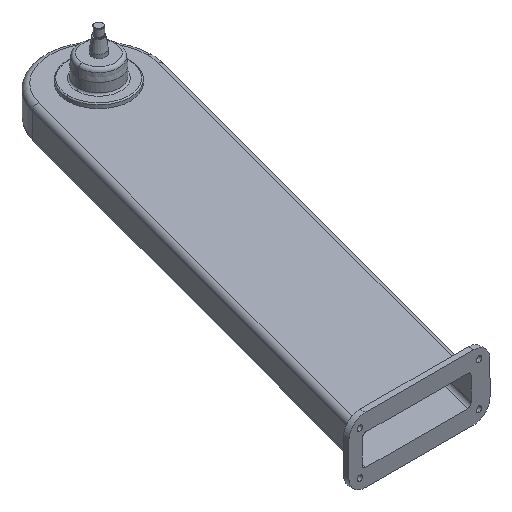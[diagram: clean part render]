
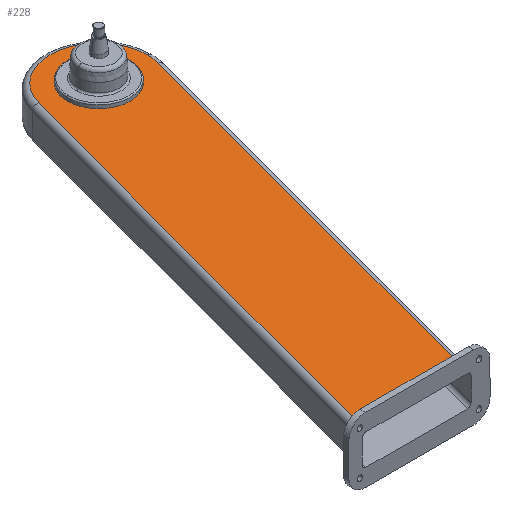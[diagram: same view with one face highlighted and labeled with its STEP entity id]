
A CAD part, isometric view. The second image highlights one B-rep face of the part: STEP entity #228.
In plain terms, the highlighted planar face has unit normal (0, 0, 1).
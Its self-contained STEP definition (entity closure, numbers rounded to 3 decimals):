
#17 = VECTOR ( 'NONE', #1755, 1000. ) ;
#30 = CARTESIAN_POINT ( 'NONE',  ( 0., 0., 31.25 ) ) ;
#91 = DIRECTION ( 'NONE',  ( 0., 0., 1. ) ) ;
#102 = EDGE_CURVE ( 'NONE', #1319, #741, #1587, .T. ) ;
#130 = DIRECTION ( 'NONE',  ( 0.259, 0.966, 0. ) ) ;
#158 = CARTESIAN_POINT ( 'NONE',  ( -58., 0., 31.25 ) ) ;
#228 = ADVANCED_FACE ( 'NONE', ( #874, #1882 ), #1395, .T. ) ;
#277 = CARTESIAN_POINT ( 'NONE',  ( 0., -780., 31.25 ) ) ;
#285 = EDGE_LOOP ( 'NONE', ( #2019, #477, #395, #1608, #2093 ) ) ;
#344 = CARTESIAN_POINT ( 'NONE',  ( -308.228, -802.588, 31.25 ) ) ;
#366 = CARTESIAN_POINT ( 'NONE',  ( 86.933, -23.294, 31.25 ) ) ;
#395 = ORIENTED_EDGE ( 'NONE', *, *, #667, .T. ) ;
#401 = VECTOR ( 'NONE', #130, 1000. ) ;
#469 = DIRECTION ( 'NONE',  ( 1., 0., 0. ) ) ;
#477 = ORIENTED_EDGE ( 'NONE', *, *, #1902, .T. ) ;
#506 = CIRCLE ( 'NONE', #1231, 90. ) ;
#524 = EDGE_CURVE ( 'NONE', #1426, #1787, #835, .T. ) ;
#543 = VERTEX_POINT ( 'NONE', #549 ) ;
#549 = CARTESIAN_POINT ( 'NONE',  ( -115.826, -780., 31.25 ) ) ;
#584 = EDGE_CURVE ( 'NONE', #1661, #590, #1194, .T. ) ;
#590 = VERTEX_POINT ( 'NONE', #1387 ) ;
#667 = EDGE_CURVE ( 'NONE', #543, #1426, #1496, .T. ) ;
#675 = EDGE_LOOP ( 'NONE', ( #678, #2136 ) ) ;
#678 = ORIENTED_EDGE ( 'NONE', *, *, #102, .F. ) ;
#725 = CARTESIAN_POINT ( 'NONE',  ( 0., 0., 31.25 ) ) ;
#741 = VERTEX_POINT ( 'NONE', #158 ) ;
#777 = CARTESIAN_POINT ( 'NONE',  ( 0., 0., 31.25 ) ) ;
#782 = CARTESIAN_POINT ( 'NONE',  ( 58., 0., 31.25 ) ) ;
#835 = CIRCLE ( 'NONE', #1179, 90. ) ;
#874 = FACE_OUTER_BOUND ( 'NONE', #285, .T. ) ;
#876 = DIRECTION ( 'NONE',  ( 0., 0., 1. ) ) ;
#892 = DIRECTION ( 'NONE',  ( 1., 0., 0. ) ) ;
#916 = CARTESIAN_POINT ( 'NONE',  ( -86.933, 23.294, 31.25 ) ) ;
#917 = DIRECTION ( 'NONE',  ( 0., 0., 1. ) ) ;
#922 = EDGE_CURVE ( 'NONE', #741, #1319, #1618, .T. ) ;
#950 = AXIS2_PLACEMENT_3D ( 'NONE', #2051, #917, #2232 ) ;
#962 = AXIS2_PLACEMENT_3D ( 'NONE', #725, #876, #892 ) ;
#997 = DIRECTION ( 'NONE',  ( 1., 0., 0. ) ) ;
#1179 = AXIS2_PLACEMENT_3D ( 'NONE', #777, #2123, #997 ) ;
#1194 = LINE ( 'NONE', #344, #17 ) ;
#1219 = CARTESIAN_POINT ( 'NONE',  ( 86.933, -23.294, 31.25 ) ) ;
#1231 = AXIS2_PLACEMENT_3D ( 'NONE', #1375, #91, #1558 ) ;
#1319 = VERTEX_POINT ( 'NONE', #782 ) ;
#1375 = CARTESIAN_POINT ( 'NONE',  ( 0., 0., 31.25 ) ) ;
#1387 = CARTESIAN_POINT ( 'NONE',  ( -302.175, -780., 31.25 ) ) ;
#1395 = PLANE ( 'NONE',  #962 ) ;
#1426 = VERTEX_POINT ( 'NONE', #366 ) ;
#1496 = LINE ( 'NONE', #1219, #401 ) ;
#1501 = DIRECTION ( 'NONE',  ( 0., 0., 1. ) ) ;
#1558 = DIRECTION ( 'NONE',  ( 1., 0., 0. ) ) ;
#1587 = CIRCLE ( 'NONE', #1628, 58. ) ;
#1608 = ORIENTED_EDGE ( 'NONE', *, *, #524, .T. ) ;
#1618 = CIRCLE ( 'NONE', #950, 58. ) ;
#1628 = AXIS2_PLACEMENT_3D ( 'NONE', #30, #1501, #469 ) ;
#1661 = VERTEX_POINT ( 'NONE', #916 ) ;
#1694 = LINE ( 'NONE', #277, #2138 ) ;
#1716 = DIRECTION ( 'NONE',  ( 1., 0., 0. ) ) ;
#1755 = DIRECTION ( 'NONE',  ( -0.259, -0.966, 0. ) ) ;
#1787 = VERTEX_POINT ( 'NONE', #2450 ) ;
#1882 = FACE_BOUND ( 'NONE', #675, .T. ) ;
#1902 = EDGE_CURVE ( 'NONE', #590, #543, #1694, .T. ) ;
#1985 = EDGE_CURVE ( 'NONE', #1787, #1661, #506, .T. ) ;
#2019 = ORIENTED_EDGE ( 'NONE', *, *, #584, .T. ) ;
#2051 = CARTESIAN_POINT ( 'NONE',  ( 0., 0., 31.25 ) ) ;
#2093 = ORIENTED_EDGE ( 'NONE', *, *, #1985, .T. ) ;
#2123 = DIRECTION ( 'NONE',  ( 0., 0., 1. ) ) ;
#2136 = ORIENTED_EDGE ( 'NONE', *, *, #922, .F. ) ;
#2138 = VECTOR ( 'NONE', #1716, 1000. ) ;
#2232 = DIRECTION ( 'NONE',  ( 1., 0., 0. ) ) ;
#2450 = CARTESIAN_POINT ( 'NONE',  ( 90., 0., 31.25 ) ) ;
